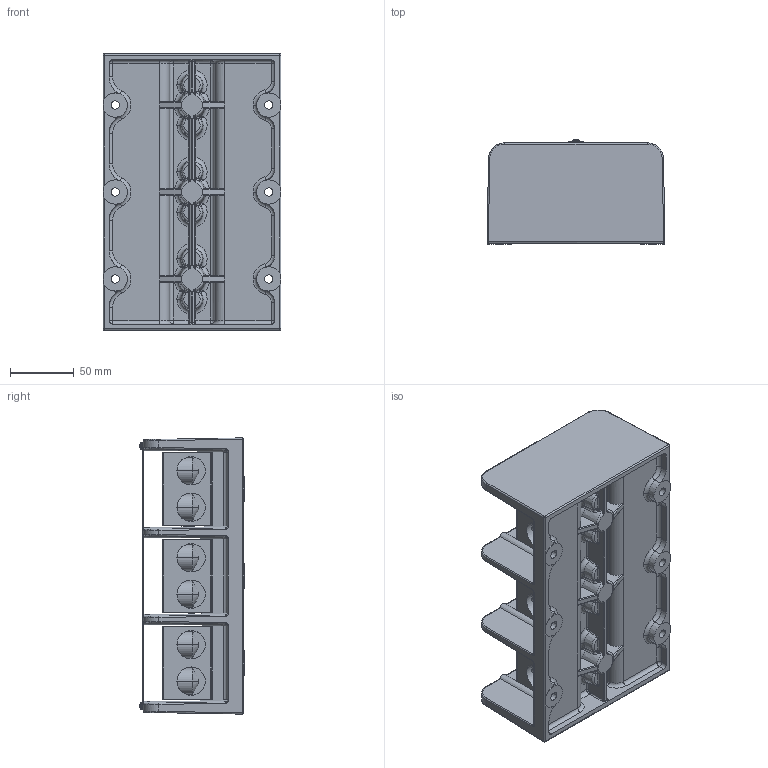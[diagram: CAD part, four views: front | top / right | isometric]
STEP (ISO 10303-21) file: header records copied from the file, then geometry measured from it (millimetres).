
FILE_DESCRIPTION (( 'STEP AP214' ), '1' );
FILE_NAME ('1492-PD3C287.STEP', '2014-11-25T13:00:17', ( 'admin' ), ( 'REGAL' ), 'SwSTEP 2.0', 'SolidWorks 2011', '' );
FILE_SCHEMA (( 'AUTOMOTIVE_DESIGN' ));
Length unit declared in the file: inch
Products named in the file (8): 9818006; 97402xx_9740212; 97974xx_9797418; 9799233; 9799207; 97730xx; 9812203; 1492-PD3C287
Assembly tree (52 placements, depth 2):
  1492-PD3C287
    9799207  x32
    97974xx_9797418  x4
    9799233  x8
    97730xx  x4
    9818006  x2
    97402xx_9740212
    9812203
Bounding box: 139.66 x 81.97 x 216.88 mm (x, y, z)
Volume: 922763.7 mm3; surface area: 356331.6 mm2
Topology: 52 solids, 52 shells, 2856 faces, 7132 edges, 4396 vertices
Faces by surface type: plane 1204, cylinder 885, cone 360, bspline 216, torus 113, sphere 78
Entity records: 58652 total; most frequent: CARTESIAN_POINT 29569, ORIENTED_EDGE 6354, DIRECTION 5630, EDGE_CURVE 3177, AXIS2_PLACEMENT_3D 2201, VERTEX_POINT 1935, EDGE_LOOP 1352, ADVANCED_FACE 1281
